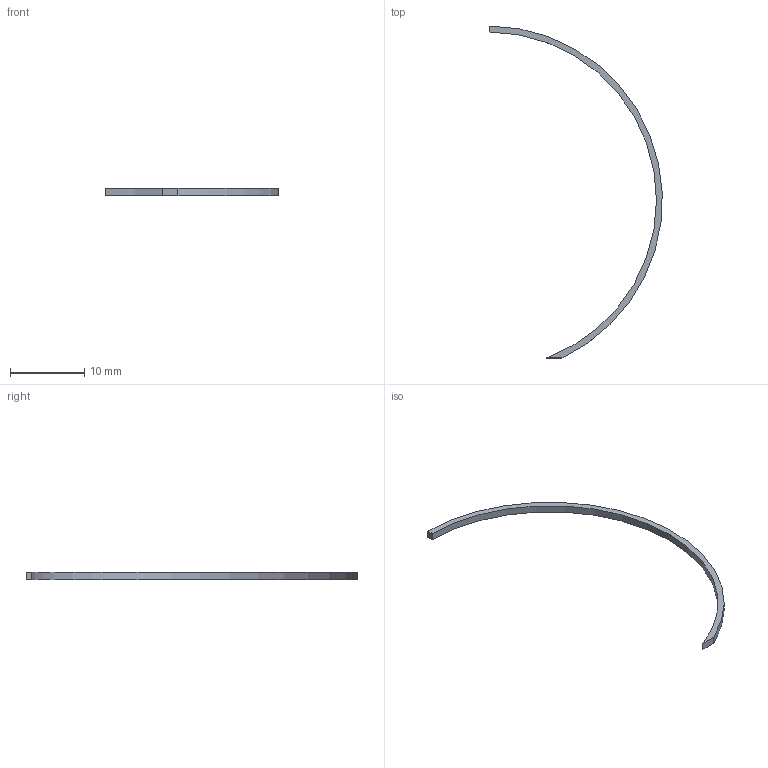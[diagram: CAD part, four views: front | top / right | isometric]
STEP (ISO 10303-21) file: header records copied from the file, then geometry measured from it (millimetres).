
FILE_DESCRIPTION(('Open CASCADE Model'),'2;1');
FILE_NAME('Open CASCADE Shape Model','2026-09-30T21:50:23',('Author'),( 'Open CASCADE'),'Open CASCADE STEP processor 7.9','Open CASCADE 7.9' ,'Unknown');
FILE_SCHEMA(('AUTOMOTIVE_DESIGN { 1 0 10303 214 1 1 1 1 }'));
Length unit declared in the file: millimetre
Products named in the file (1): Open CASCADE STEP translator 7.9 6
Bounding box: 23.18 x 44.6 x 1 mm (x, y, z)
Volume: 50.3 mm3; surface area: 229.4 mm2
Topology: 1 solids, 1 shells, 6 faces, 12 edges, 8 vertices
Faces by surface type: plane 4, cylinder 2
Entity records: 316 total; most frequent: CARTESIAN_POINT 79, DIRECTION 36, ORIENTED_EDGE 24, PCURVE 24, DEFINITIONAL_REPRESENTATION 24, B_SPLINE_CURVE_WITH_KNOTS 16, EDGE_CURVE 12, SURFACE_CURVE 12
